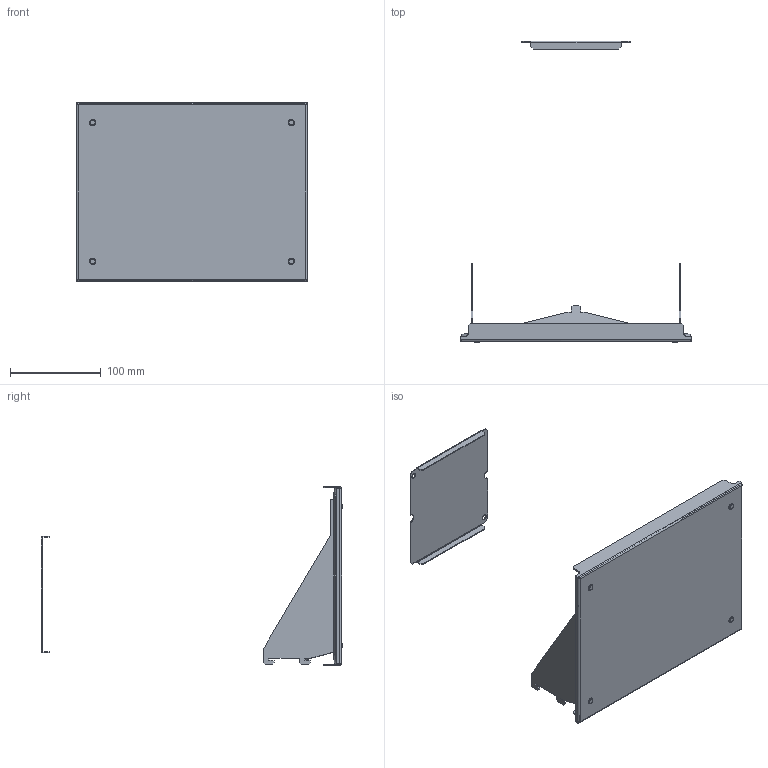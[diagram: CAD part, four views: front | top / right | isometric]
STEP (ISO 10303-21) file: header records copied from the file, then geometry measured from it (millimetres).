
FILE_DESCRIPTION(('CAx-IF Rec.Pracs.---Model Styling and Organization---1.2---2011-12-15','CAx-IF Rec.Pracs.---Geometric and Assembly Validation Properties---4.1---2014-06-16','CAx-IF Rec.Pracs.---PMI Polyline Presentation---2.0---2013-05-24'),'2;1');
FILE_NAME('R5M2W4M2BS.stp','2021-05-05T12:22:32+03:00',(''),(''),'STEP Interface 4.4 by CT CoreTechnologie','3D_Evolution4.4 by CT CoreTechnologie','');
FILE_SCHEMA(('AUTOMOTIVE_DESIGN { 1 0 10303 214 1 1 1 1 }'));
Length unit declared in the file: millimetre
Products named in the file (9): R5M2W4M2BS; RB.1256.00.00.0_-00; RB.1237.00.00.0_-05; 5-GOST 11371-78 (DIN 125) PA 6.6_5-GOST 11371-78 (DIN 125) PA 6.6; RB.1235.00.00.0 ÑÁ_-05; RB.1235.00.01.0_-05; PF 7x14 RAMmcc 2.0_1x2_; Ì6õ12-A5100231_straight; AC00C061_AC00C061
Assembly tree (11 placements, depth 3):
  R5M2W4M2BS
    RB.1256.00.00.0_-00
    RB.1237.00.00.0_-05
    5-GOST 11371-78 (DIN 125) PA 6.6_5-GOST 11371-78 (DIN 125) PA 6.6  x4
    RB.1235.00.00.0 ÑÁ_-05
      RB.1235.00.01.0_-05
      PF 7x14 RAMmcc 2.0_1x2_
      Ì6õ12-A5100231_straight
      AC00C061_AC00C061
Bounding box: 255.5 x 332 x 197 mm (x, y, z)
Surface area: 240728.9 mm2 (no closed solid volume)
Topology: 0 solids, 14 shells, 253 faces, 637 edges, 408 vertices
Faces by surface type: plane 172, cylinder 69, bspline 12
Entity records: 8167 total; most frequent: CARTESIAN_POINT 1826, ORIENTED_EDGE 1230, DIRECTION 1199, EDGE_CURVE 615, VECTOR 469, LINE 469, VERTEX_POINT 396, AXIS2_PLACEMENT_3D 365
